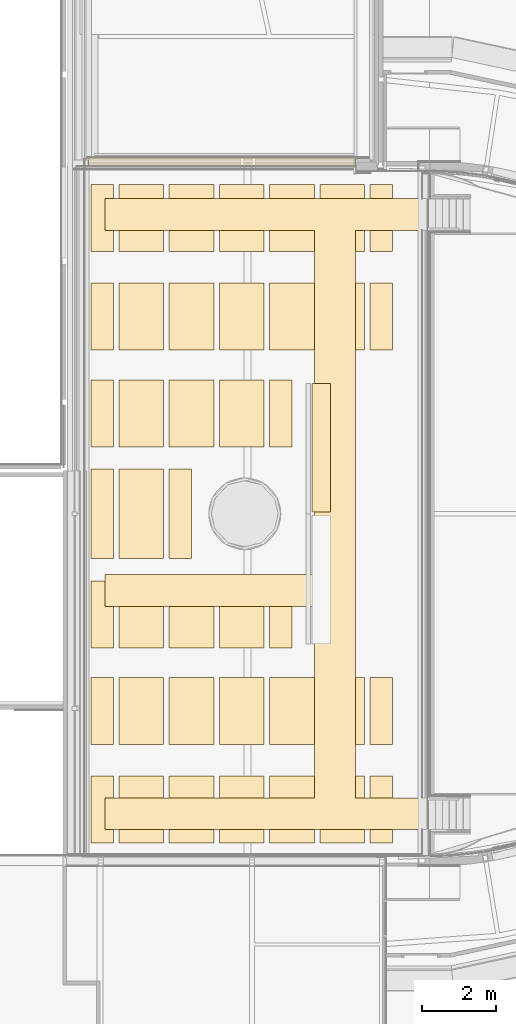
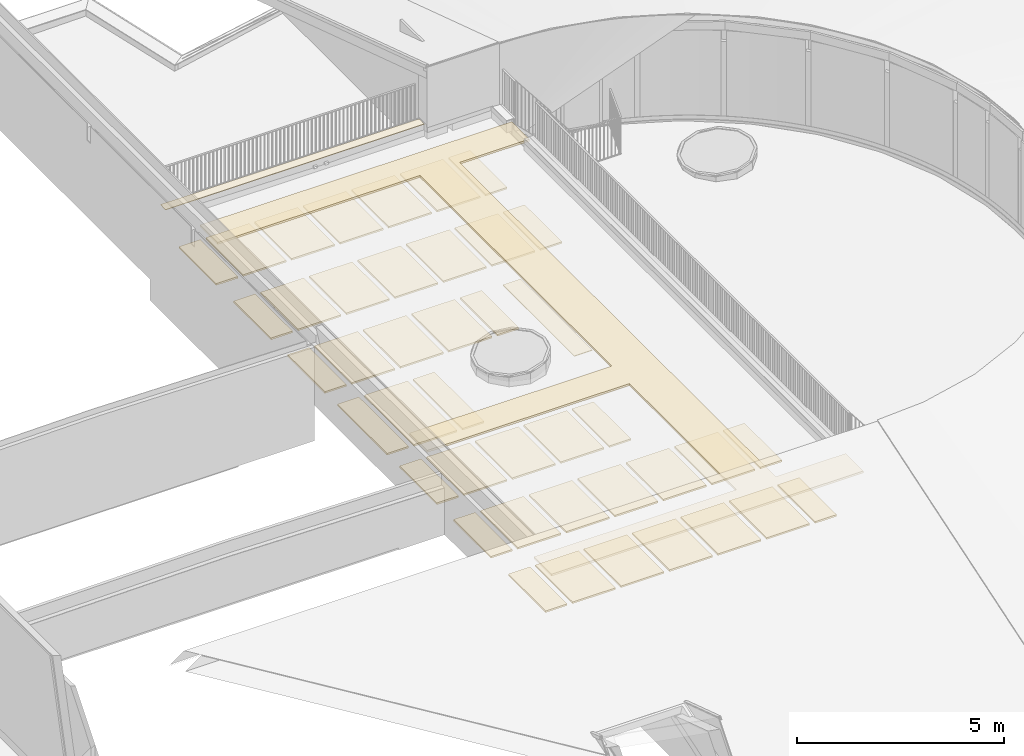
# One storey, part 57 of 66: 4 coverings.
"""IFC2X3 building model written with IfcOpenShell, lengths in millimetres."""

from ifc_helpers import new_model, entity, si_unit, converted_unit, derived_unit, direction, frame, frame_2d, origin, origin_2d_with_axis, place, context, subcontext, project, spatial, polyline, rectangle, outline, extrude, clip, halfspace, material, layer, layer_set, layer_usage, type_object, element, save


model = new_model("IFC2X3")

# Units and contexts
model_context = context("Model", 3, precision=0.01, world=origin(), true_north=direction((6.12303176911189e-17, 1.0)))
body_context = subcontext(model_context, "Body", "Model", "MODEL_VIEW")
ifc_project = project(units=[si_unit("LENGTHUNIT", "METRE", prefix="MILLI"), si_unit("AREAUNIT", "SQUARE_METRE"), si_unit("VOLUMEUNIT", "CUBIC_METRE"), converted_unit("PLANEANGLEUNIT", "DEGREE", entity("IfcRatioMeasure", 0.0174532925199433), si_unit("PLANEANGLEUNIT", "RADIAN"), dimensions=[0, 0, 0, 0, 0, 0, 0]), si_unit("MASSUNIT", "GRAM", prefix="KILO"), derived_unit("MASSDENSITYUNIT", [(si_unit("MASSUNIT", "GRAM", prefix="KILO"), 1), (si_unit("LENGTHUNIT", "METRE"), -3)]), derived_unit("MOMENTOFINERTIAUNIT", [(si_unit("LENGTHUNIT", "METRE"), 4)]), si_unit("TIMEUNIT", "SECOND"), si_unit("FREQUENCYUNIT", "HERTZ"), si_unit("THERMODYNAMICTEMPERATUREUNIT", "DEGREE_CELSIUS"), derived_unit("THERMALTRANSMITTANCEUNIT", [(si_unit("MASSUNIT", "GRAM", prefix="KILO"), 1), (si_unit("THERMODYNAMICTEMPERATUREUNIT", "KELVIN"), -1), (si_unit("TIMEUNIT", "SECOND"), -3)]), derived_unit("VOLUMETRICFLOWRATEUNIT", [(si_unit("LENGTHUNIT", "METRE"), 3), (si_unit("TIMEUNIT", "SECOND"), -1)]), si_unit("ELECTRICCURRENTUNIT", "AMPERE"), si_unit("ELECTRICVOLTAGEUNIT", "VOLT"), si_unit("POWERUNIT", "WATT"), si_unit("FORCEUNIT", "NEWTON", prefix="KILO"), si_unit("ILLUMINANCEUNIT", "LUX"), si_unit("LUMINOUSFLUXUNIT", "LUMEN"), si_unit("LUMINOUSINTENSITYUNIT", "CANDELA"), derived_unit("USERDEFINED", [(si_unit("MASSUNIT", "GRAM", prefix="KILO"), -1), (si_unit("LENGTHUNIT", "METRE"), -2), (si_unit("TIMEUNIT", "SECOND"), 3), (si_unit("LUMINOUSFLUXUNIT", "LUMEN"), 1)]), derived_unit("LINEARVELOCITYUNIT", [(si_unit("LENGTHUNIT", "METRE"), 1), (si_unit("TIMEUNIT", "SECOND"), -1)]), si_unit("PRESSUREUNIT", "PASCAL"), derived_unit("USERDEFINED", [(si_unit("LENGTHUNIT", "METRE"), -2), (si_unit("MASSUNIT", "GRAM", prefix="KILO"), 1), (si_unit("TIMEUNIT", "SECOND"), -2)]), derived_unit("LINEARFORCEUNIT", [(si_unit("MASSUNIT", "GRAM", prefix="KILO"), 1), (si_unit("LENGTHUNIT", "METRE"), 1), (si_unit("TIMEUNIT", "SECOND"), -2), (si_unit("LENGTHUNIT", "METRE"), -1)]), derived_unit("PLANARFORCEUNIT", [(si_unit("MASSUNIT", "GRAM", prefix="KILO"), 1), (si_unit("LENGTHUNIT", "METRE"), 1), (si_unit("TIMEUNIT", "SECOND"), -2), (si_unit("LENGTHUNIT", "METRE"), -2)])], contexts=[model_context])

# Site, building, storey
site_placement = place(None, origin())
site = spatial("IfcSite", under=ifc_project, at=site_placement, Name="Default", CompositionType="ELEMENT")
building_placement = place(site_placement, origin())
building = spatial("IfcBuilding", under=site, at=building_placement, Name="-", CompositionType="ELEMENT")
storey_placement = place(building_placement, frame((0.0, 0.0, 3070.0)))
storey = spatial("IfcBuildingStorey", under=building, at=storey_placement, Name="01 eerste verdieping", CompositionType="ELEMENT", Elevation=3070.00000000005)

# Coverings
ifc_material_1 = material(Name="NLRS_i4_hout_multiplex")
ifc_layer_1 = layer(ifc_material_1, 15.0)
ifc_layer_set_1 = layer_set([ifc_layer_1], Name="Floor:NLRS_44_FL_Multiplex 15mm")
ifc_layer_usage_1 = layer_usage(ifc_layer_set_1, "AXIS3", "POSITIVE", 0.0)
covering_type_1 = type_object("IfcCoveringType", Name="Floor:NLRS_44_FL_Multiplex 15mm", PredefinedType="FLOORING", material=ifc_layer_set_1)
covering_1_placement = place(storey_placement, origin())
element("IfcCovering", 1, at=covering_1_placement, inside=storey, type_object=covering_type_1, material=ifc_layer_usage_1, Name="Floor:NLRS_44_FL_Multiplex 15mm", ObjectType="Floor:NLRS_44_FL_Multiplex 15mm", PredefinedType="FLOORING", context=body_context, shape_type="Clipping", body=[
    clip(clip(extrude(rectangle(XDim=240.208242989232, YDim=7201.41101405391, at=origin_2d_with_axis()), frame((45065.8571549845, 29076.7067824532, 1749.0), z_axis=(0.0, 0.0416305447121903, -0.999133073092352), x_axis=(0.0, 0.999133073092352, 0.0416305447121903)), (-0.0416305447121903, 0.0, 0.999133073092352), 15.0130151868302), halfspace(frame((45065.8571549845, 29076.7067824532, 1734.0), z_axis=(0.0, 0.0416305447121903, -0.999133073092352), x_axis=(-1.0, 0.0, 0.0)), False)), halfspace(frame((45065.8571549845, 29076.7067824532, 1749.0), z_axis=(0.0, -0.0416305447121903, 0.999133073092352), x_axis=(-1.0, 0.0, 0.0)), False)),
])
ifc_material_2 = material(Name="NLRS_m1_systeemplafond 600x600mm")
covering_type_2 = type_object("IfcCoveringType", Name="Akoestische panelen 16:Akoestische panelen 16", PredefinedType="NOTDEFINED")
covering_2_placement = place(storey_placement, origin())
element("IfcCovering", 2, at=covering_2_placement, inside=storey, type_object=covering_type_2, material=ifc_material_2, Name="Akoestische panelen 16:Akoestische panelen 16", ObjectType="Akoestische panelen 16:Akoestische panelen 16", PredefinedType="NOTDEFINED", context=body_context, shape_type="SweptSolid", body=[
    extrude(rectangle(XDim=600.000000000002, YDim=1800.0, at=origin_2d_with_axis()), frame((41847.6645167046, 27557.2067824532, 882.5)), (0.0, 0.0, 1.0), 50.0),
    extrude(rectangle(XDim=1800.0, YDim=600.000000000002, at=origin_2d_with_axis()), frame((41847.6645167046, 11674.9126754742, 882.5), z_axis=(0.0, 0.0, 1.0), x_axis=(0.0, -1.0, 0.0)), (0.0, 0.0, 1.0), 50.0),
    extrude(rectangle(XDim=1200.0, YDim=1800.0, at=frame_2d((-4.32009983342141e-12, 2.1600499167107e-12), x_axis=(1.0, 0.0))), frame((42897.6645167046, 27557.2067824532, 882.5)), (0.0, 0.0, 1.0), 50.0),
    extrude(rectangle(XDim=1200.0, YDim=1800.0, at=frame_2d((4.32009983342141e-12, 0.0), x_axis=(1.0, 0.0))), frame((44247.6645167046, 27557.2067824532, 882.5)), (0.0, 0.0, 1.0), 50.0),
    extrude(rectangle(XDim=1200.0, YDim=1800.0, at=frame_2d((-4.32009983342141e-12, 2.1600499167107e-12), x_axis=(1.0, 0.0))), frame((45597.6645167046, 27557.2067824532, 882.5)), (0.0, 0.0, 1.0), 50.0),
    extrude(rectangle(XDim=1200.0, YDim=1800.0, at=frame_2d((4.32009983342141e-12, 0.0), x_axis=(1.0, 0.0))), frame((46947.6645167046, 27557.2067824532, 882.5)), (0.0, 0.0, 1.0), 50.0),
    extrude(rectangle(XDim=1200.0, YDim=1800.0, at=frame_2d((-4.32009983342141e-12, -2.1600499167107e-12), x_axis=(1.0, 0.0))), frame((48297.6645167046, 27557.2067824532, 882.5)), (0.0, 0.0, 1.0), 50.0),
    extrude(rectangle(XDim=600.000000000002, YDim=1800.0, at=origin_2d_with_axis()), frame((49347.6645167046, 27557.2067824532, 882.5)), (0.0, 0.0, 1.0), 50.0),
    extrude(rectangle(XDim=1800.0, YDim=600.000000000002, at=origin_2d_with_axis()), frame((41847.6645167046, 22316.0597289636, 882.5), z_axis=(0.0, 0.0, 1.0), x_axis=(0.0, -1.0, 0.0)), (0.0, 0.0, 1.0), 50.0),
    extrude(rectangle(XDim=1800.0, YDim=1200.0, at=frame_2d((0.0, 4.32009983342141e-12), x_axis=(1.0, 0.0))), frame((42897.6645167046, 22316.0597289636, 882.5), z_axis=(0.0, 0.0, 1.0), x_axis=(0.0, -1.0, 0.0)), (0.0, 0.0, 1.0), 50.0),
    extrude(rectangle(XDim=1800.0, YDim=1200.0, at=frame_2d((2.1600499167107e-12, 4.32009983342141e-12), x_axis=(1.0, 0.0))), frame((44247.6645167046, 22316.0597289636, 882.5), z_axis=(0.0, 0.0, 1.0), x_axis=(0.0, -1.0, 0.0)), (0.0, 0.0, 1.0), 50.0),
    extrude(rectangle(XDim=1800.0, YDim=1200.0, at=frame_2d((0.0, 4.32009983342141e-12), x_axis=(1.0, 0.0))), frame((45597.6645167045, 22316.0597289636, 882.5), z_axis=(0.0, 0.0, 1.0), x_axis=(0.0, -1.0, 0.0)), (0.0, 0.0, 1.0), 50.0),
    extrude(rectangle(XDim=600.000000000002, YDim=1800.0, at=origin_2d_with_axis()), frame((41847.6645167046, 24916.0597289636, 882.5)), (0.0, 0.0, 1.0), 50.0),
    extrude(rectangle(XDim=1200.0, YDim=1800.0, at=frame_2d((-4.32009983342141e-12, -2.1600499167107e-12), x_axis=(1.0, 0.0))), frame((42897.6645167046, 24916.0597289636, 882.5)), (0.0, 0.0, 1.0), 50.0),
    extrude(rectangle(XDim=1200.0, YDim=1800.0, at=frame_2d((-4.32009983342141e-12, 0.0), x_axis=(1.0, 0.0))), frame((44247.6645167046, 24916.0597289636, 882.5)), (0.0, 0.0, 1.0), 50.0),
    extrude(rectangle(XDim=1200.0, YDim=1800.0, at=frame_2d((4.32009983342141e-12, 2.1600499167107e-12), x_axis=(1.0, 0.0))), frame((45597.6645167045, 24916.0597289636, 882.5)), (0.0, 0.0, 1.0), 50.0),
    extrude(rectangle(XDim=1200.0, YDim=1800.0, at=frame_2d((-4.32009983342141e-12, 0.0), x_axis=(1.0, 0.0))), frame((46947.6645167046, 24916.0597289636, 882.5)), (0.0, 0.0, 1.0), 50.0),
    extrude(rectangle(XDim=1200.0, YDim=1800.0, at=frame_2d((4.32009983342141e-12, -2.1600499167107e-12), x_axis=(1.0, 0.0))), frame((48297.6645167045, 24916.0597289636, 882.5)), (0.0, 0.0, 1.0), 50.0),
    extrude(rectangle(XDim=600.000000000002, YDim=1800.0, at=origin_2d_with_axis()), frame((49347.6645167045, 24916.0597289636, 882.5)), (0.0, 0.0, 1.0), 50.0),
    extrude(rectangle(XDim=1800.0, YDim=1200.0, at=frame_2d((0.0, -4.32009983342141e-12), x_axis=(1.0, 0.0))), frame((42897.6645167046, 11674.9126754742, 882.5), z_axis=(0.0, 0.0, 1.0), x_axis=(0.0, -1.0, 0.0)), (0.0, 0.0, 1.0), 50.0),
    extrude(rectangle(XDim=1800.0, YDim=1200.0, at=frame_2d((0.0, 4.32009983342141e-12), x_axis=(1.0, 0.0))), frame((44247.6645167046, 11674.9126754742, 882.5), z_axis=(0.0, 0.0, 1.0), x_axis=(0.0, -1.0, 0.0)), (0.0, 0.0, 1.0), 50.0),
    extrude(rectangle(XDim=1800.0, YDim=1200.0, at=frame_2d((0.0, 4.32009983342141e-12), x_axis=(1.0, 0.0))), frame((45597.6645167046, 11674.9126754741, 882.5), z_axis=(0.0, 0.0, 1.0), x_axis=(0.0, -1.0, 0.0)), (0.0, 0.0, 1.0), 50.0),
    extrude(rectangle(XDim=1800.0, YDim=1200.0, at=frame_2d((0.0, 4.32009983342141e-12), x_axis=(1.0, 0.0))), frame((46947.6645167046, 11674.9126754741, 882.5), z_axis=(0.0, 0.0, 1.0), x_axis=(0.0, -1.0, 0.0)), (0.0, 0.0, 1.0), 50.0),
    extrude(rectangle(XDim=1800.0, YDim=1200.0, at=frame_2d((0.0, -4.32009983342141e-12), x_axis=(1.0, 0.0))), frame((48297.6645167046, 11674.9126754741, 882.5), z_axis=(0.0, 0.0, 1.0), x_axis=(0.0, -1.0, 0.0)), (0.0, 0.0, 1.0), 50.0),
    extrude(rectangle(XDim=1800.0, YDim=600.000000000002, at=origin_2d_with_axis()), frame((49347.6645167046, 11674.9126754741, 882.5), z_axis=(0.0, 0.0, 1.0), x_axis=(0.0, -1.0, 0.0)), (0.0, 0.0, 1.0), 50.0),
    extrude(rectangle(XDim=600.000000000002, YDim=1800.0, at=origin_2d_with_axis()), frame((41847.6645167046, 16916.0597289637, 882.5)), (0.0, 0.0, 1.0), 50.0),
    extrude(rectangle(XDim=1200.0, YDim=1800.0, at=frame_2d((4.32009983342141e-12, 0.0), x_axis=(1.0, 0.0))), frame((42897.6645167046, 16916.0597289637, 882.5)), (0.0, 0.0, 1.0), 50.0),
    extrude(rectangle(XDim=1200.0, YDim=1800.0, at=frame_2d((-4.32009983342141e-12, 0.0), x_axis=(1.0, 0.0))), frame((44247.6645167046, 16916.0597289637, 882.5)), (0.0, 0.0, 1.0), 50.0),
    extrude(rectangle(XDim=1200.0, YDim=1800.0, at=frame_2d((4.32009983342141e-12, 0.0), x_axis=(1.0, 0.0))), frame((45597.6645167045, 16916.0597289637, 882.5)), (0.0, 0.0, 1.0), 50.0),
    extrude(rectangle(XDim=1800.0, YDim=600.000000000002, at=origin_2d_with_axis()), frame((41847.6645167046, 14316.0597289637, 882.5), z_axis=(0.0, 0.0, 1.0), x_axis=(0.0, -1.0, 0.0)), (0.0, 0.0, 1.0), 50.0),
    extrude(rectangle(XDim=1800.0, YDim=1200.0, at=frame_2d((0.0, -4.32009983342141e-12), x_axis=(1.0, 0.0))), frame((42897.6645167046, 14316.0597289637, 882.5), z_axis=(0.0, 0.0, 1.0), x_axis=(0.0, -1.0, 0.0)), (0.0, 0.0, 1.0), 50.0),
    extrude(rectangle(XDim=1800.0, YDim=1200.0, at=frame_2d((0.0, 4.32009983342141e-12), x_axis=(1.0, 0.0))), frame((44247.6645167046, 14316.0597289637, 882.5), z_axis=(0.0, 0.0, 1.0), x_axis=(0.0, -1.0, 0.0)), (0.0, 0.0, 1.0), 50.0),
    extrude(rectangle(XDim=1800.0, YDim=1200.0, at=frame_2d((0.0, 4.32009983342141e-12), x_axis=(1.0, 0.0))), frame((45597.6645167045, 14316.0597289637, 882.5), z_axis=(0.0, 0.0, 1.0), x_axis=(0.0, -1.0, 0.0)), (0.0, 0.0, 1.0), 50.0),
    extrude(rectangle(XDim=1800.0, YDim=1200.0, at=frame_2d((0.0, -4.32009983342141e-12), x_axis=(1.0, 0.0))), frame((46947.6645167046, 14316.0597289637, 882.5), z_axis=(0.0, 0.0, 1.0), x_axis=(0.0, -1.0, 0.0)), (0.0, 0.0, 1.0), 50.0),
    extrude(rectangle(XDim=1800.0, YDim=1200.0, at=frame_2d((0.0, 4.32009983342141e-12), x_axis=(1.0, 0.0))), frame((48297.6645167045, 14316.0597289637, 882.5), z_axis=(0.0, 0.0, 1.0), x_axis=(0.0, -1.0, 0.0)), (0.0, 0.0, 1.0), 50.0),
    extrude(rectangle(XDim=1800.0, YDim=600.000000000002, at=origin_2d_with_axis()), frame((49347.6645167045, 14316.0597289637, 882.5), z_axis=(0.0, 0.0, 1.0), x_axis=(0.0, -1.0, 0.0)), (0.0, 0.0, 1.0), 50.0),
    extrude(rectangle(XDim=600.000000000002, YDim=2400.0, at=origin_2d_with_axis()), frame((41847.6645167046, 19616.0597289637, 882.5)), (0.0, 0.0, 1.0), 50.0),
    extrude(rectangle(XDim=1200.0, YDim=2400.0, at=frame_2d((-4.32009983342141e-12, 0.0), x_axis=(1.0, 0.0))), frame((42897.6645167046, 19616.0597289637, 882.5)), (0.0, 0.0, 1.0), 50.0),
    extrude(rectangle(XDim=600.000000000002, YDim=2400.0, at=frame_2d((0.0, 2.1600499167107e-12), x_axis=(1.0, 0.0))), frame((43947.6645167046, 19616.0597289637, 882.5)), (0.0, 0.0, 1.0), 50.0),
    extrude(rectangle(XDim=600.000000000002, YDim=1800.0, at=origin_2d_with_axis()), frame((46647.6645167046, 16916.0597289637, 882.5)), (0.0, 0.0, 1.0), 50.0),
    extrude(rectangle(XDim=1799.99999999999, YDim=600.000000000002, at=frame_2d((-2.1600499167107e-12, 0.0), x_axis=(1.0, 0.0))), frame((46647.6645167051, 22316.0597289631, 882.5), z_axis=(0.0, 0.0, 1.0), x_axis=(0.0, -1.0, 0.0)), (0.0, 0.0, 1.0), 50.0),
])
ifc_material_3 = material(Name="NLRS_f2_beton 300x300x60mm")
ifc_layer_2 = layer(ifc_material_3, 60.0)
ifc_layer_set_2 = layer_set([ifc_layer_2], Name="Floor:NLRS_90_FL_bestrating n.t.b._gen_aly")
ifc_layer_usage_2 = layer_usage(ifc_layer_set_2, "AXIS3", "POSITIVE", 0.0)
covering_type_3 = type_object("IfcCoveringType", Name="Floor:NLRS_90_FL_bestrating n.t.b._gen_aly", PredefinedType="FLOORING", material=ifc_layer_set_2)
covering_3_placement = place(storey_placement, origin())
element("IfcCovering", 3, at=covering_3_placement, inside=storey, type_object=covering_type_3, material=ifc_layer_usage_2, Name="Floor:NLRS_90_FL_bestrating n.t.b._gen_aly", ObjectType="Floor:NLRS_90_FL_bestrating n.t.b._gen_aly", PredefinedType="FLOORING", context=body_context, shape_type="SweptSolid", body=[
    extrude(outline(polyline([(-7962.50000000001, -4419.62500000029), (-7112.5, -4419.62500000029), (-7112.5, 1212.37499999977), (-1962.5, 1212.37499999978), (-1962.5, -4419.62500000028), (-1112.5, -4419.62500000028), (-1112.5, 1212.37499999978), (8137.50000000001, 1212.37499999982), (8137.50000000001, -4419.62500000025), (8987.5, -4419.62500000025), (8987.5, 4260.87500000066), (8137.5, 4260.87500000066), (8137.5, 2312.37499999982), (-7112.5, 2312.37499999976), (-7112.5, 4260.87500000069), (-7962.50000000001, 4260.87500000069), (-7962.50000000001, -4419.62500000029)])), frame((46338.2453901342, 19093.4965964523, 1669.04762678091), z_axis=(0.0, 0.0, -1.0), x_axis=(0.0, 1.0, 0.0)), (0.0, 0.0, 1.0), 59.9999999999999),
])
ifc_layer_3 = layer(ifc_material_2, 20.0)
ifc_layer_set_3 = layer_set([ifc_layer_3], Name="Compound Ceiling:NLRS_45_CEI_systeemplafond 600x600mm_dikte 20mm_gen_aly")
ifc_layer_usage_3 = layer_usage(ifc_layer_set_3, "AXIS3", "POSITIVE", 0.0)
covering_type_4 = type_object("IfcCoveringType", Name="Compound Ceiling:NLRS_45_CEI_systeemplafond 600x600mm_dikte 20mm_gen_aly", PredefinedType="CEILING")
covering_4_placement = place(storey_placement, origin())
element("IfcCovering", 4, at=covering_4_placement, inside=storey, type_object=covering_type_4, material=ifc_layer_usage_3, Name="Compound Ceiling:NLRS_45_CEI_systeemplafond 600x600mm_dikte 20mm_gen_aly", ObjectType="Compound Ceiling:NLRS_45_CEI_systeemplafond 600x600mm_dikte 20mm_gen_aly", PredefinedType="CEILING", context=body_context, shape_type="SweptSolid", body=[
    extrude(rectangle(XDim=3449.99999999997, YDim=500.000000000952, at=frame_2d((2.1600499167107e-12, 4.33431068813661e-12), x_axis=(1.0, 0.0))), frame((47731.6203901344, 21391.0597289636, 950.0), z_axis=(0.0, 0.0, 1.0), x_axis=(0.0, -1.0, 0.0)), (0.0, 0.0, 1.0), 19.9999999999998),
])

save(model, "model.ifc")
